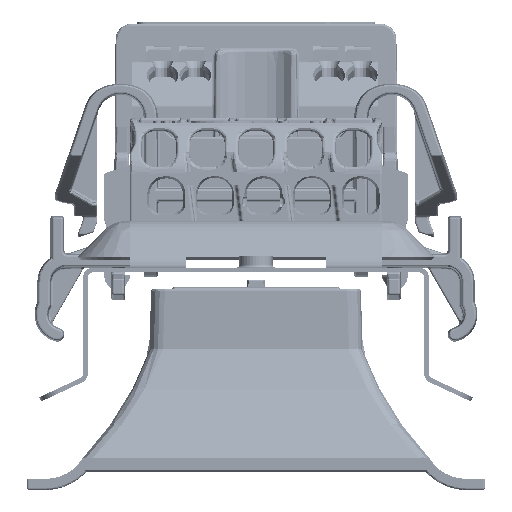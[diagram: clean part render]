
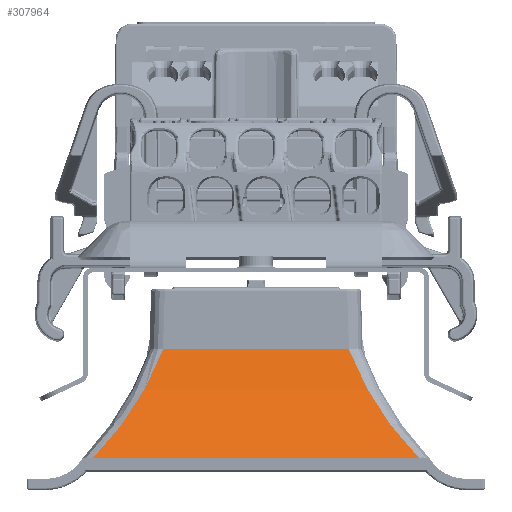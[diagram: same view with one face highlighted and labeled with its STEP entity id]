
A CAD part, front view. The second image highlights one B-rep face of the part: STEP entity #307964.
In plain terms, the highlighted cylindrical face has radius 33.5 mm (diameter 67 mm), a partial arc.
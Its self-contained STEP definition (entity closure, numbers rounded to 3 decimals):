
#3494=ELLIPSE('',#331337,48.448,33.5);
#3501=ELLIPSE('',#331348,48.448,33.5);
#10220=B_SPLINE_CURVE_WITH_KNOTS('',3,(#579531,#579532,#579533,#579534),
 .UNSPECIFIED.,.F.,.F.,(4,4),(-3.295,-3.286),
 .UNSPECIFIED.);
#10222=B_SPLINE_CURVE_WITH_KNOTS('',3,(#579583,#579584,#579585,#579586),
 .UNSPECIFIED.,.F.,.F.,(4,4),(-3.283,-3.274),
 .UNSPECIFIED.);
#31761=FACE_OUTER_BOUND('',#49501,.T.);
#49501=EDGE_LOOP('',(#245245,#245246,#245247,#245248,#245249,#245250));
#75100=LINE('',#581394,#100354);
#75108=LINE('',#581421,#100362);
#100354=VECTOR('',#396857,10.);
#100362=VECTOR('',#396891,10.);
#134775=VERTEX_POINT('',#579462);
#134776=VERTEX_POINT('',#579475);
#134778=VERTEX_POINT('',#579530);
#134781=VERTEX_POINT('',#579580);
#134782=VERTEX_POINT('',#579582);
#134786=VERTEX_POINT('',#579658);
#172173=EDGE_CURVE('',#134775,#134776,#3494,.T.);
#172177=EDGE_CURVE('',#134776,#134778,#10220,.T.);
#172188=EDGE_CURVE('',#134781,#134782,#10222,.T.);
#172194=EDGE_CURVE('',#134786,#134782,#3501,.T.);
#172482=EDGE_CURVE('',#134781,#134778,#75100,.T.);
#172492=EDGE_CURVE('',#134786,#134775,#75108,.T.);
#245245=ORIENTED_EDGE('',*,*,#172173,.F.);
#245246=ORIENTED_EDGE('',*,*,#172492,.F.);
#245247=ORIENTED_EDGE('',*,*,#172194,.T.);
#245248=ORIENTED_EDGE('',*,*,#172188,.F.);
#245249=ORIENTED_EDGE('',*,*,#172482,.T.);
#245250=ORIENTED_EDGE('',*,*,#172177,.F.);
#277171=CYLINDRICAL_SURFACE('',#331581,33.5);
#307964=ADVANCED_FACE('',(#31761),#277171,.F.);
#331337=AXIS2_PLACEMENT_3D('',#579476,#396257,#396258);
#331348=AXIS2_PLACEMENT_3D('',#579672,#396285,#396286);
#331581=AXIS2_PLACEMENT_3D('',#581431,#396905,#396906);
#396257=DIRECTION('center_axis',(0.691,-0.722,0.));
#396258=DIRECTION('ref_axis',(0.722,0.691,0.));
#396285=DIRECTION('center_axis',(0.691,0.722,0.));
#396286=DIRECTION('ref_axis',(-0.722,0.691,0.));
#396857=DIRECTION('',(-1.,0.,0.));
#396891=DIRECTION('',(-1.,0.,0.));
#396905=DIRECTION('center_axis',(1.,0.,0.));
#396906=DIRECTION('ref_axis',(0.,1.,0.));
#579462=CARTESIAN_POINT('',(-17.464,-419.302,-20.399));
#579475=CARTESIAN_POINT('',(-9.95,-412.11,-8.748));
#579476=CARTESIAN_POINT('Origin',(-42.86,-443.61,2.653));
#579530=CARTESIAN_POINT('',(-9.863,-412.113,-8.756));
#579531=CARTESIAN_POINT('Ctrl Pts',(-9.95,-412.11,
-8.748));
#579532=CARTESIAN_POINT('Ctrl Pts',(-9.921,-412.112,-8.753));
#579533=CARTESIAN_POINT('Ctrl Pts',(-9.892,-412.113,
-8.756));
#579534=CARTESIAN_POINT('Ctrl Pts',(-9.863,-412.113,
-8.756));
#579580=CARTESIAN_POINT('',(9.863,-412.113,-8.756));
#579582=CARTESIAN_POINT('',(9.95,-412.11,-8.748));
#579583=CARTESIAN_POINT('Ctrl Pts',(9.863,-412.113,
-8.756));
#579584=CARTESIAN_POINT('Ctrl Pts',(9.892,-412.113,
-8.756));
#579585=CARTESIAN_POINT('Ctrl Pts',(9.921,-412.112,
-8.753));
#579586=CARTESIAN_POINT('Ctrl Pts',(9.95,-412.11,
-8.748));
#579658=CARTESIAN_POINT('',(17.464,-419.302,-20.399));
#579672=CARTESIAN_POINT('Origin',(42.86,-443.61,2.653));
#581394=CARTESIAN_POINT('',(0.,-412.113,-8.756));
#581421=CARTESIAN_POINT('',(0.,-419.302,-20.399));
#581431=CARTESIAN_POINT('Origin',(0.,-443.61,
2.653));
